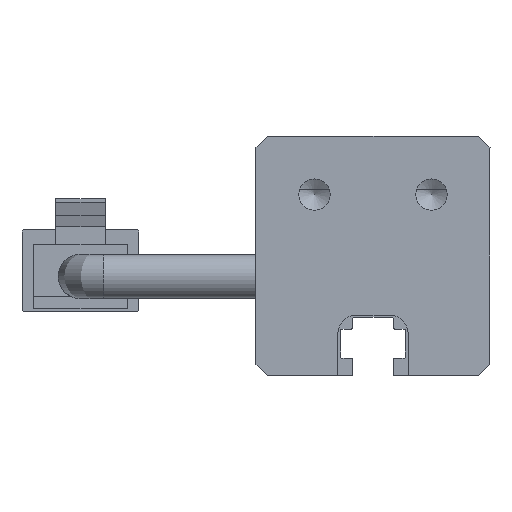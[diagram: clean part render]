
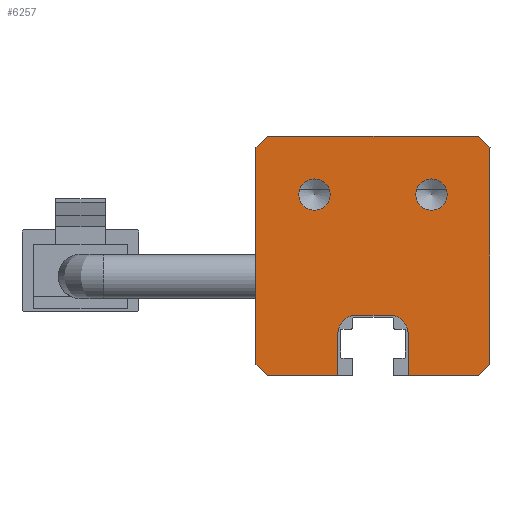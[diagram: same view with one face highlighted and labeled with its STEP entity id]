
A CAD part, front view. The second image highlights one B-rep face of the part: STEP entity #6257.
In plain terms, the highlighted planar face has unit normal (0, -1, 0).
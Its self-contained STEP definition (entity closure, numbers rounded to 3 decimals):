
#63=FACE_BOUND('',#918,.T.);
#64=FACE_BOUND('',#919,.T.);
#284=CIRCLE('',#6774,1.336);
#286=CIRCLE('',#6778,1.336);
#288=CIRCLE('',#6781,1.6);
#290=CIRCLE('',#6795,1.6);
#588=FACE_OUTER_BOUND('',#917,.T.);
#917=EDGE_LOOP('',(#5418,#5419,#5420,#5421,#5422,#5423,#5424,#5425,#5426,
#5427,#5428,#5429,#5430,#5431));
#918=EDGE_LOOP('',(#5432));
#919=EDGE_LOOP('',(#5433));
#1570=LINE('',#10110,#2294);
#1573=LINE('',#10116,#2297);
#1576=LINE('',#10122,#2300);
#1579=LINE('',#10128,#2303);
#1582=LINE('',#10134,#2306);
#1585=LINE('',#10140,#2309);
#1588=LINE('',#10146,#2312);
#1591=LINE('',#10152,#2315);
#1594=LINE('',#10158,#2318);
#1597=LINE('',#10164,#2321);
#1600=LINE('',#10170,#2324);
#1604=LINE('',#10180,#2328);
#2294=VECTOR('',#8282,10.);
#2297=VECTOR('',#8287,10.);
#2300=VECTOR('',#8292,10.);
#2303=VECTOR('',#8297,10.);
#2306=VECTOR('',#8302,10.);
#2309=VECTOR('',#8307,10.);
#2312=VECTOR('',#8312,10.);
#2315=VECTOR('',#8317,10.);
#2318=VECTOR('',#8322,10.);
#2321=VECTOR('',#8327,10.);
#2324=VECTOR('',#8332,10.);
#2328=VECTOR('',#8344,10.);
#2916=VERTEX_POINT('',#10085);
#2919=VERTEX_POINT('',#10094);
#2922=VERTEX_POINT('',#10101);
#2923=VERTEX_POINT('',#10103);
#2925=VERTEX_POINT('',#10109);
#2927=VERTEX_POINT('',#10115);
#2929=VERTEX_POINT('',#10121);
#2931=VERTEX_POINT('',#10127);
#2933=VERTEX_POINT('',#10133);
#2935=VERTEX_POINT('',#10139);
#2937=VERTEX_POINT('',#10145);
#2939=VERTEX_POINT('',#10151);
#2941=VERTEX_POINT('',#10157);
#2943=VERTEX_POINT('',#10163);
#2945=VERTEX_POINT('',#10169);
#2947=VERTEX_POINT('',#10175);
#3756=EDGE_CURVE('',#2916,#2916,#284,.T.);
#3760=EDGE_CURVE('',#2919,#2919,#286,.T.);
#3764=EDGE_CURVE('',#2923,#2922,#288,.T.);
#3767=EDGE_CURVE('',#2925,#2923,#1570,.T.);
#3770=EDGE_CURVE('',#2927,#2925,#1573,.T.);
#3773=EDGE_CURVE('',#2929,#2927,#1576,.T.);
#3776=EDGE_CURVE('',#2931,#2929,#1579,.T.);
#3779=EDGE_CURVE('',#2933,#2931,#1582,.T.);
#3782=EDGE_CURVE('',#2935,#2933,#1585,.T.);
#3785=EDGE_CURVE('',#2937,#2935,#1588,.T.);
#3788=EDGE_CURVE('',#2939,#2937,#1591,.T.);
#3791=EDGE_CURVE('',#2941,#2939,#1594,.T.);
#3794=EDGE_CURVE('',#2943,#2941,#1597,.T.);
#3797=EDGE_CURVE('',#2945,#2943,#1600,.T.);
#3800=EDGE_CURVE('',#2947,#2945,#290,.T.);
#3803=EDGE_CURVE('',#2922,#2947,#1604,.T.);
#5418=ORIENTED_EDGE('',*,*,#3803,.T.);
#5419=ORIENTED_EDGE('',*,*,#3800,.T.);
#5420=ORIENTED_EDGE('',*,*,#3797,.T.);
#5421=ORIENTED_EDGE('',*,*,#3794,.T.);
#5422=ORIENTED_EDGE('',*,*,#3791,.T.);
#5423=ORIENTED_EDGE('',*,*,#3788,.T.);
#5424=ORIENTED_EDGE('',*,*,#3785,.T.);
#5425=ORIENTED_EDGE('',*,*,#3782,.T.);
#5426=ORIENTED_EDGE('',*,*,#3779,.T.);
#5427=ORIENTED_EDGE('',*,*,#3776,.T.);
#5428=ORIENTED_EDGE('',*,*,#3773,.T.);
#5429=ORIENTED_EDGE('',*,*,#3770,.T.);
#5430=ORIENTED_EDGE('',*,*,#3767,.T.);
#5431=ORIENTED_EDGE('',*,*,#3764,.T.);
#5432=ORIENTED_EDGE('',*,*,#3756,.T.);
#5433=ORIENTED_EDGE('',*,*,#3760,.T.);
#5947=PLANE('',#6797);
#6257=ADVANCED_FACE('',(#588,#63,#64),#5947,.T.);
#6774=AXIS2_PLACEMENT_3D('',#10086,#8258,#8259);
#6778=AXIS2_PLACEMENT_3D('',#10095,#8268,#8269);
#6781=AXIS2_PLACEMENT_3D('',#10104,#8276,#8277);
#6795=AXIS2_PLACEMENT_3D('',#10176,#8338,#8339);
#6797=AXIS2_PLACEMENT_3D('',#10181,#8345,#8346);
#8258=DIRECTION('center_axis',(0.,1.,0.));
#8259=DIRECTION('ref_axis',(0.,0.,-1.));
#8268=DIRECTION('center_axis',(0.,1.,0.));
#8269=DIRECTION('ref_axis',(0.,0.,-1.));
#8276=DIRECTION('center_axis',(0.,1.,0.));
#8277=DIRECTION('ref_axis',(0.,0.,1.));
#8282=DIRECTION('',(0.,0.,1.));
#8287=DIRECTION('',(1.,0.,0.));
#8292=DIRECTION('',(0.707,0.,-0.707));
#8297=DIRECTION('',(0.,0.,-1.));
#8302=DIRECTION('',(-0.707,0.,-0.707));
#8307=DIRECTION('',(-1.,0.,0.));
#8312=DIRECTION('',(-0.707,0.,0.707));
#8317=DIRECTION('',(0.,0.,1.));
#8322=DIRECTION('',(0.707,0.,0.707));
#8327=DIRECTION('',(1.,0.,0.));
#8332=DIRECTION('',(0.,0.,-1.));
#8338=DIRECTION('center_axis',(0.,1.,0.));
#8339=DIRECTION('ref_axis',(1.,0.,0.));
#8344=DIRECTION('',(1.,0.,0.));
#8345=DIRECTION('center_axis',(0.,-1.,0.));
#8346=DIRECTION('ref_axis',(1.,0.,0.));
#10085=CARTESIAN_POINT('',(5.,-197.5,16.836));
#10086=CARTESIAN_POINT('Origin',(5.,-197.5,15.5));
#10094=CARTESIAN_POINT('',(-5.,-197.5,16.836));
#10095=CARTESIAN_POINT('Origin',(-5.,-197.5,15.5));
#10101=CARTESIAN_POINT('',(-1.4,-197.5,5.2));
#10103=CARTESIAN_POINT('',(-3.,-197.5,3.6));
#10104=CARTESIAN_POINT('Origin',(-1.4,-197.5,3.6));
#10109=CARTESIAN_POINT('',(-3.,-197.5,0.));
#10110=CARTESIAN_POINT('',(-3.,-197.5,0.));
#10115=CARTESIAN_POINT('',(-9.,-197.5,0.));
#10116=CARTESIAN_POINT('',(-3.,-197.5,0.));
#10121=CARTESIAN_POINT('',(-10.,-197.5,1.));
#10122=CARTESIAN_POINT('',(-10.,-197.5,1.));
#10127=CARTESIAN_POINT('',(-10.,-197.5,19.5));
#10128=CARTESIAN_POINT('',(-10.,-197.5,19.5));
#10133=CARTESIAN_POINT('',(-9.,-197.5,20.5));
#10134=CARTESIAN_POINT('',(-9.,-197.5,20.5));
#10139=CARTESIAN_POINT('',(9.,-197.5,20.5));
#10140=CARTESIAN_POINT('',(-9.,-197.5,20.5));
#10145=CARTESIAN_POINT('',(10.,-197.5,19.5));
#10146=CARTESIAN_POINT('',(10.,-197.5,19.5));
#10151=CARTESIAN_POINT('',(10.,-197.5,1.));
#10152=CARTESIAN_POINT('',(10.,-197.5,19.5));
#10157=CARTESIAN_POINT('',(9.,-197.5,0.));
#10158=CARTESIAN_POINT('',(9.,-197.5,0.));
#10163=CARTESIAN_POINT('',(3.,-197.5,0.));
#10164=CARTESIAN_POINT('',(9.,-197.5,0.));
#10169=CARTESIAN_POINT('',(3.,-197.5,3.6));
#10170=CARTESIAN_POINT('',(3.,-197.5,3.6));
#10175=CARTESIAN_POINT('',(1.4,-197.5,5.2));
#10176=CARTESIAN_POINT('Origin',(1.4,-197.5,3.6));
#10180=CARTESIAN_POINT('',(-1.4,-197.5,5.2));
#10181=CARTESIAN_POINT('Origin',(0.,-197.5,10.25));
